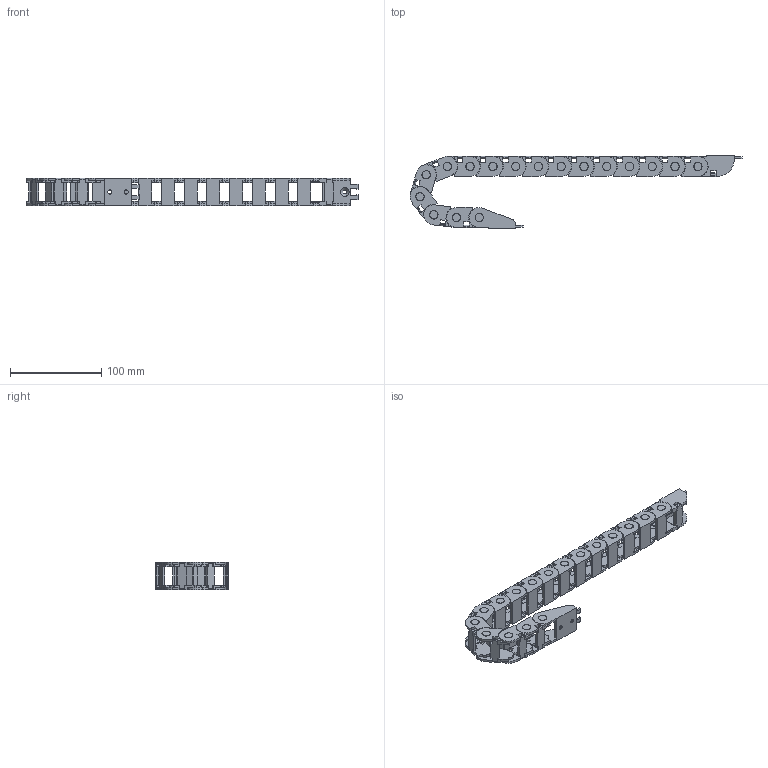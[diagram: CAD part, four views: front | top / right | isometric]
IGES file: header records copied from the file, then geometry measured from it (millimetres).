
Global section: file name: No Iges File Name specified; native system: Autodesk Inventor 2012; preprocessor: AutoDesk Inventor Iges Exporter R2012; author: cho; date: 20151020.004637; units: millimetre
Bounding box: 364.49 x 80 x 30.4 mm (x, y, z)
Volume: 102859.2 mm3; surface area: 96753.4 mm2
Topology: 35 solids, 35 shells, 1380 faces, 3804 edges, 2526 vertices
Faces by surface type: plane 1018, cylinder 238, revolution 124
Full cylindrical faces by diameter (mm): 9 x32
